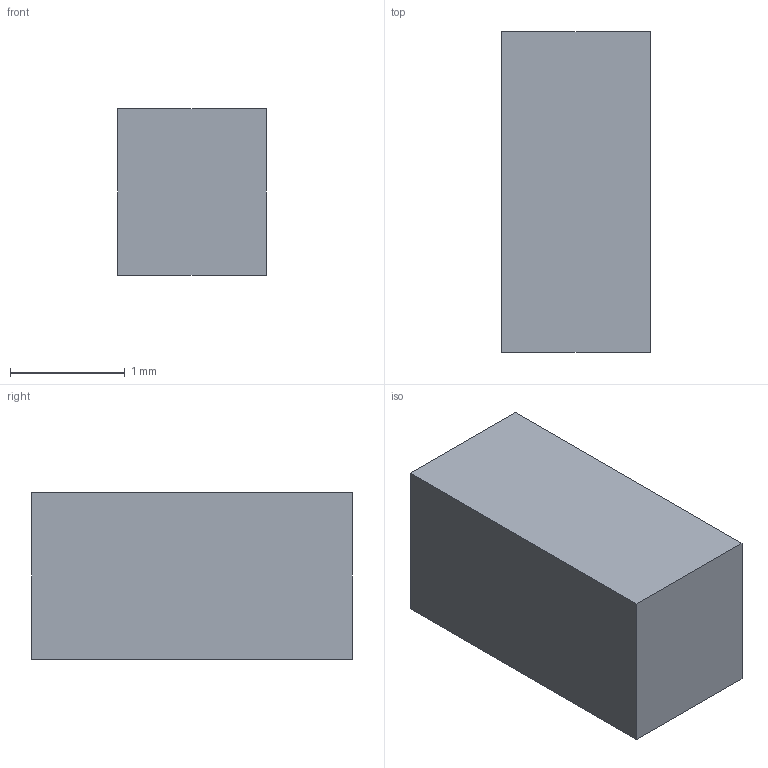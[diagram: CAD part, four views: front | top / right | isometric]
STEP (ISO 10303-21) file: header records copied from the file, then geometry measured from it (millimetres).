
FILE_DESCRIPTION(('SOT-23, 3 lead (dual diode / small signal) -- body envelope 1.45 mm tall (SOT-23 maximum seated height)'),'2;1');
FILE_NAME('SOT-23','2026-09-08T00:00:00',('TI One Voice research programme'),(''),'EEG-CAR-01 step_write.py','','CC BY-SA 4.0');
FILE_SCHEMA(('AUTOMOTIVE_DESIGN { 1 0 10303 214 1 1 1 1 }'));
Length unit declared in the file: millimetre
Products named in the file (1): SOT-23
Bounding box: 1.3 x 2.8 x 1.45 mm (x, y, z)
Volume: 5.3 mm3; surface area: 19.2 mm2
Topology: 1 solids, 1 shells, 6 faces, 12 edges, 8 vertices
Faces by surface type: plane 6
Entity records: 67 total; most frequent: DIRECTION 14, CARTESIAN_POINT 9, AXIS2_PLACEMENT_3D 7, POLY_LOOP 6, FACE_OUTER_BOUND 6, PLANE 6, FACE_SURFACE 6, UNCERTAINTY_MEASURE_WITH_UNIT 1
